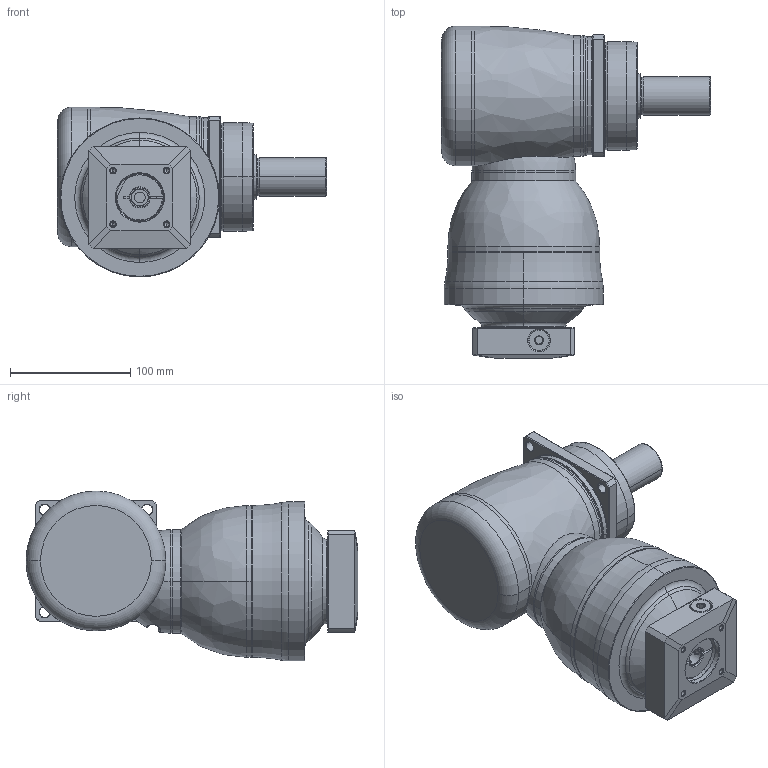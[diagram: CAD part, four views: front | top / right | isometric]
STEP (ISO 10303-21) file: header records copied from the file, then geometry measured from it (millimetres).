
FILE_DESCRIPTION((''),'2;1');
FILE_NAME('KF100_2ST_14-P0409310101_ASM','2016-06-30T',('d01943'),(''),'PRO/ENGINEER BY PARAMETRIC TECHNOLOGY CORPORATION, 2008410','PRO/ENGINEER BY PARAMETRIC TECHNOLOGY CORPORATION, 2008410','');
FILE_SCHEMA(('CONFIG_CONTROL_DESIGN'));
Length unit declared in the file: millimetre
Products named in the file (11): P1008400002; P1804400001; P0915400001; P1315400001; P1007400001; P1317400001; P0409310101; P0503300006; P0912301001; 21711412017; KF100_2ST_14-P0409310101_ASM
Assembly tree (10 placements, depth 2):
  KF100_2ST_14-P0409310101_ASM
    P1008400002
    P1804400001
    P0915400001
    P1315400001
    P1007400001
    P1317400001
    P0409310101
    P0503300006
    P0912301001
    21711412017
Bounding box: 223.3 x 275.5 x 141 mm (x, y, z)
Volume: 2393523.2 mm3; surface area: 307173.5 mm2
Topology: 11 solids, 11 shells, 465 faces, 1030 edges, 607 vertices
Faces by surface type: cylinder 146, cone 114, plane 97, torus 68, bspline 38, sphere 2
Entity records: 18482 total; most frequent: CARTESIAN_POINT 8049, DIRECTION 2288, ORIENTED_EDGE 2024, EDGE_CURVE 1012, AXIS2_PLACEMENT_3D 976, VERTEX_POINT 607, EDGE_LOOP 529, CIRCLE 528
